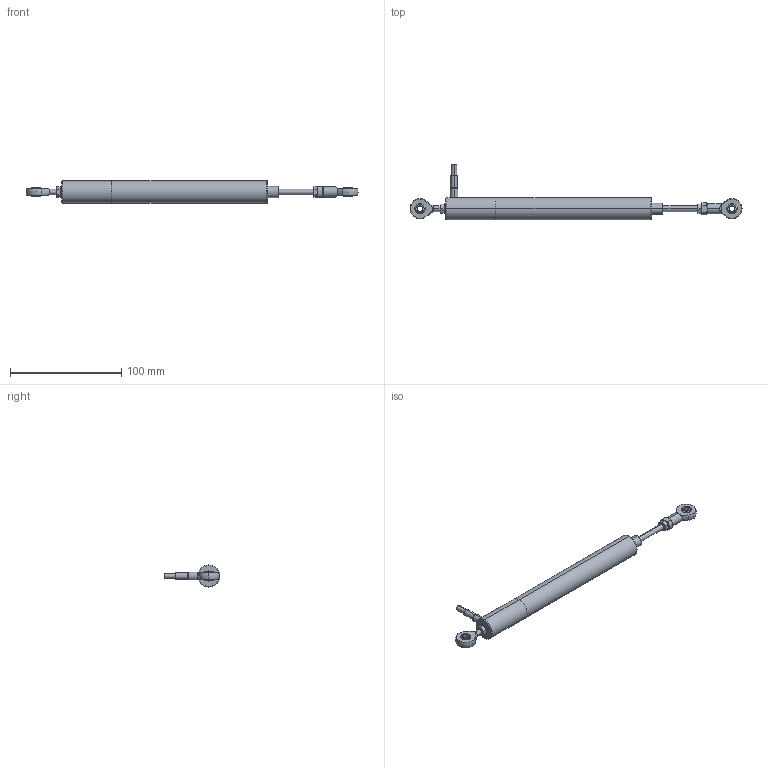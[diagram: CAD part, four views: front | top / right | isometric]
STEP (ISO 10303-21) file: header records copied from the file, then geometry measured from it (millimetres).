
FILE_DESCRIPTION (( 'STEP AP214' ), '1' );
FILE_NAME ('Wegsensor LVIG-50-10V...420A-KRxx.STEP', '2018-11-12T13:31:12', ( '' ), ( '' ), 'SwSTEP 2.0', 'SolidWorks 2015', '' );
FILE_SCHEMA (( 'AUTOMOTIVE_DESIGN' ));
Length unit declared in the file: millimetre
Products named in the file (1): Wegsensor LVIG-50-10V...420A-KRxx
Bounding box: 298 x 49.95 x 19.9 mm (x, y, z)
Volume: 64556.4 mm3; surface area: 18929.2 mm2
Topology: 7 solids, 7 shells, 134 faces, 290 edges, 176 vertices
Faces by surface type: plane 42, cone 42, cylinder 34, sphere 12, torus 4
Entity records: 4135 total; most frequent: CARTESIAN_POINT 969, DIRECTION 628, ORIENTED_EDGE 556, AXIS2_PLACEMENT_3D 281, EDGE_CURVE 278, VERTEX_POINT 168, EDGE_LOOP 150, CIRCLE 146
